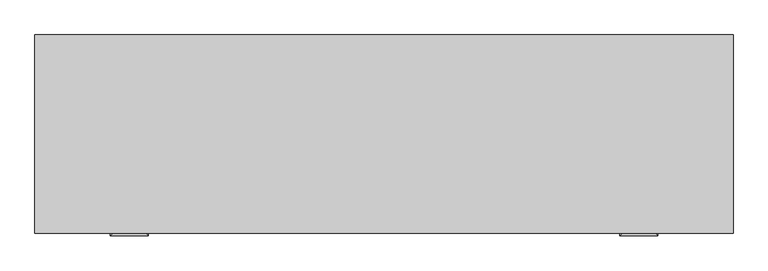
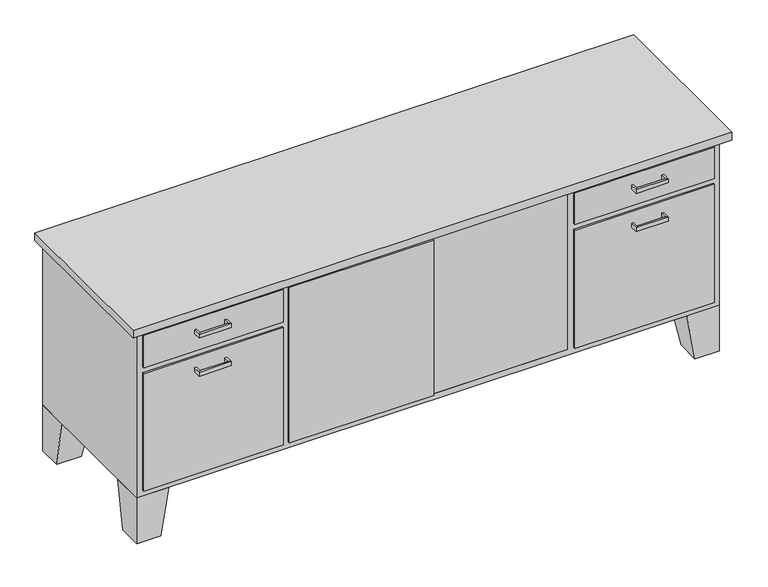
"""IFC4 building model written with IfcOpenShell, lengths in millimetres: furniture geometry, Credencia 1 : 1830 x 610 x 734  mm."""

import ifcopenshell
import ifcopenshell.guid

model = None  # the IFC model being written
_history = None  # IfcOwnerHistory: only IFC2X3 demands one
_inside = {}  # id of a spatial element -> (the spatial element, [elements in it])
_under = {}  # id of a project, library or spatial element -> (it, [spatial elements below it])
_declared = {}  # id of a project -> (the project, [libraries it declares])
_typed = {}  # id of a type object -> (the type object, [elements of that type])
_made_of = {}  # id of a material, layer set ... -> (it, [elements and type objects made of it])


def new_model(schema):
    """Start an empty IFC model of exactly this schema.

    Asked for "IFC4X3", IfcOpenShell would pick the latest addendum, in which some entities
    have other attributes; the version numbers below select the first issue.
    IFC2X3 requires an IfcOwnerHistory on every rooted entity: one is made here for all.
    """
    global model, _history
    if schema == "IFC4X3":
        model = ifcopenshell.file(schema_version=(4, 3, 0, 0))
    else:
        model = ifcopenshell.file(schema=schema)
    _inside.clear()
    _under.clear()
    _declared.clear()
    _typed.clear()
    _made_of.clear()
    _history = None
    if model.schema == "IFC2X3":
        org = make("IfcOrganization", Name="unknown")
        user = make(
            "IfcPersonAndOrganization",
            ThePerson=make("IfcPerson", FamilyName="unknown"),
            TheOrganization=org,
        )
        app = make(
            "IfcApplication",
            ApplicationDeveloper=org,
            Version="unknown",
            ApplicationFullName="unknown",
            ApplicationIdentifier="unknown",
        )
        _history = make(
            "IfcOwnerHistory",
            OwningUser=user,
            OwningApplication=app,
            ChangeAction="ADDED",
            CreationDate=0,
        )
    return model


def make(cls, **values):
    """One entity of the class cls with the attributes given. An attribute that is None is left unset."""
    return model.create_entity(
        cls, **{name: value for name, value in values.items() if value is not None}
    )


def rooted(cls, **values):
    """An entity with a GlobalId (a new one), such as an element, a storey or a relation."""
    return make(cls, GlobalId=ifcopenshell.guid.new(), OwnerHistory=_history, **values)


def si_unit(unit_type, name, prefix=None):
    """IfcSIUnit, for example si_unit("LENGTHUNIT", "METRE", prefix="MILLI")."""
    return make("IfcSIUnit", UnitType=unit_type, Prefix=prefix, Name=name)


def assignment(units):
    """IfcUnitAssignment: the units of a project."""
    return None if units is None else make("IfcUnitAssignment", Units=units)


def point(xyz):
    """IfcCartesianPoint."""
    return None if xyz is None else make("IfcCartesianPoint", Coordinates=xyz)


def direction(xyz):
    """IfcDirection."""
    return None if xyz is None else make("IfcDirection", DirectionRatios=xyz)


def frame(location, z_axis=None, x_axis=None):
    """IfcAxis2Placement3D, a coordinate frame: its origin and axes. An axis left out is left unset."""
    return make(
        "IfcAxis2Placement3D",
        Location=point(location),
        Axis=direction(z_axis),
        RefDirection=direction(x_axis),
    )


def origin():
    """The frame at (0, 0, 0) with its axes left unset."""
    return frame((0.0, 0.0, 0.0))


def place(relative_to, where):
    """IfcLocalPlacement: puts the frame where relative to a parent placement (None: the world)."""
    return make(
        "IfcLocalPlacement", PlacementRelTo=relative_to, RelativePlacement=where
    )


def context(
    kind, dimensions, precision=None, world=None, true_north=None, identifier=None
):
    """IfcGeometricRepresentationContext, for example the 3D "Model" context."""
    return make(
        "IfcGeometricRepresentationContext",
        ContextIdentifier=identifier,
        ContextType=kind,
        CoordinateSpaceDimension=dimensions,
        Precision=precision,
        WorldCoordinateSystem=world,
        TrueNorth=true_north,
    )


def project(units=None, contexts=None):
    """IfcProject with its units and contexts."""
    return rooted(
        "IfcProject",
        Name="project",
        RepresentationContexts=contexts,
        UnitsInContext=assignment(units),
    )


def spatial(cls, under=None, at=None, **own):
    """A site, building, storey or space (cls), placed at a placement, below another one or the project."""
    s = rooted(cls, ObjectPlacement=at, **own)
    if under is not None:
        _under.setdefault(under.id(), (under, []))[1].append(s)
    return s


def polyline(points):
    """IfcPolyline through the points."""
    return make("IfcPolyline", Points=[point(p) for p in points])


def outline(outer, holes=None, kind="AREA"):
    """IfcArbitraryClosedProfileDef: a profile drawn as a closed curve; with holes, ...WithVoids."""
    if holes is None:
        return make("IfcArbitraryClosedProfileDef", ProfileType=kind, OuterCurve=outer)
    return make(
        "IfcArbitraryProfileDefWithVoids",
        ProfileType=kind,
        OuterCurve=outer,
        InnerCurves=holes,
    )


def extrude(swept, where, along, depth):
    """IfcExtrudedAreaSolid: the profile swept, set in the frame where, extruded along a direction by depth."""
    return make(
        "IfcExtrudedAreaSolid",
        SweptArea=swept,
        Position=where,
        ExtrudedDirection=direction(along),
        Depth=depth,
    )


def faces_of(points, faces, orient=None, outer=None):
    """IfcFace entities. A face is a list of loops; a loop is a list of indices into points, from 0.

    orient and outer hold one flag for each loop. By default every Orientation is true, the
    first loop of a face is its IfcFaceOuterBound and the others are IfcFaceBound.
    """
    made = []
    for i, loops in enumerate(faces):
        bounds = []
        for j, loop in enumerate(loops):
            is_outer = j == 0 if outer is None else outer[i][j]
            bounds.append(
                make(
                    "IfcFaceOuterBound" if is_outer else "IfcFaceBound",
                    Bound=make("IfcPolyLoop", Polygon=[points[k] for k in loop]),
                    Orientation=True if orient is None else orient[i][j],
                )
            )
        made.append(make("IfcFace", Bounds=bounds))
    return made


def faceted_brep(points, faces, orient=None, outer=None, voids=None):
    """IfcFacetedBrep: a solid bounded by flat faces; with voids (closed shells), ...WithVoids."""
    shared = [point(p) for p in points]
    hull = make("IfcClosedShell", CfsFaces=faces_of(shared, faces, orient, outer))
    if voids is None:
        return make("IfcFacetedBrep", Outer=hull)
    return make(
        "IfcFacetedBrepWithVoids",
        Outer=hull,
        Voids=[
            make(cls, CfsFaces=faces_of(shared, fs, o, b)) for cls, fs, o, b in voids
        ],
    )


def shape(context_of_items, identifier, shape_type, items):
    """IfcShapeRepresentation: the items that make up one representation, for example the "Body"."""
    return make(
        "IfcShapeRepresentation",
        ContextOfItems=context_of_items,
        RepresentationIdentifier=identifier,
        RepresentationType=shape_type,
        Items=items,
    )


def source(mapping_origin, context_of_items, identifier, shape_type, items):
    """IfcRepresentationMap: a shape defined once, which mapped items show again and again."""
    return make(
        "IfcRepresentationMap",
        MappingOrigin=mapping_origin,
        MappedRepresentation=shape(context_of_items, identifier, shape_type, items),
    )


def transform(
    local_origin,
    x_axis=None,
    y_axis=None,
    z_axis=None,
    scale=None,
    scale2=None,
    scale3=None,
    uniform=True,
):
    """IfcCartesianTransformationOperator3D, or its non-uniform kind. x_axis, y_axis, z_axis: its Axis1, 2, 3."""
    if uniform:
        return make(
            "IfcCartesianTransformationOperator3D",
            Axis1=direction(x_axis),
            Axis2=direction(y_axis),
            LocalOrigin=point(local_origin),
            Scale=scale,
            Axis3=direction(z_axis),
        )
    return make(
        "IfcCartesianTransformationOperator3DnonUniform",
        Axis1=direction(x_axis),
        Axis2=direction(y_axis),
        LocalOrigin=point(local_origin),
        Scale=scale,
        Axis3=direction(z_axis),
        Scale2=scale2,
        Scale3=scale3,
    )


def mapped(mapping_source, mapping_target):
    """IfcMappedItem: shows the shape of a source again, moved by a transform."""
    return make(
        "IfcMappedItem", MappingSource=mapping_source, MappingTarget=mapping_target
    )


def made_of(thing, what):
    """Note that an element or type object is made of a material, layer set ...; save() writes the relation."""
    if what is not None:
        _made_of.setdefault(what.id(), (what, []))[1].append(thing)
    return thing


def element(
    cls,
    number,
    at=None,
    inside=None,
    cuts=None,
    type_object=None,
    material=None,
    context=None,
    identifier="Body",
    shape_type=None,
    held_by="IfcProductDefinitionShape",
    body=None,
    shapes=None,
    **own,
):
    """One element of the class cls, such as IfcWall. Its Tag is "e" and its number.

    at: its placement. inside: the storey or other place that contains it. cuts: it is an
    opening in that element (IfcRelVoidsElement). A single representation is given by context,
    identifier, shape_type and body (its items); several are given by shapes. held_by: the class
    of the entity that holds the representations. save() writes the other relations.
    """
    e = rooted(cls, Tag="e%d" % number, ObjectPlacement=at, **own)
    if body is not None:
        shapes = [shape(context, identifier, shape_type, body)]
    if shapes is not None:
        e.Representation = make(held_by, Representations=shapes)
    if inside is not None:
        _inside.setdefault(inside.id(), (inside, []))[1].append(e)
    if cuts is not None:
        rooted(
            "IfcRelVoidsElement", RelatingBuildingElement=cuts, RelatedOpeningElement=e
        )
    if type_object is not None:
        _typed.setdefault(type_object.id(), (type_object, []))[1].append(e)
    return made_of(e, material)


def aggregate(whole, parts):
    """IfcRelAggregates: a whole, such as a stair, and the parts it consists of."""
    return rooted("IfcRelAggregates", RelatingObject=whole, RelatedObjects=parts)


def save(model, path):
    """Write the relations noted so far, then the file.

    IfcRelAggregates (storeys below a building ...), IfcRelContainedInSpatialStructure (elements
    in a storey), IfcRelDefinesByType, IfcRelAssociatesMaterial and IfcRelDeclares: one each for
    every whole, place, type object, material and project.
    """
    for whole, parts in _under.values():
        aggregate(whole, parts)
    for where, things in _inside.values():
        rooted(
            "IfcRelContainedInSpatialStructure",
            RelatedElements=things,
            RelatingStructure=where,
        )
    for kind, things in _typed.values():
        rooted("IfcRelDefinesByType", RelatedObjects=things, RelatingType=kind)
    for what, things in _made_of.values():
        rooted("IfcRelAssociatesMaterial", RelatedObjects=things, RelatingMaterial=what)
    for by, libraries in _declared.values():
        rooted("IfcRelDeclares", RelatingContext=by, RelatedDefinitions=libraries)
    model.write(path)


def furniture_878a3a28(model_context):
    return source(origin(), model_context, "Body", "SolidModel", [
        extrude(outline(polyline([(1001.9442623, 259.5803279), (1001.9442623, -275.8196721), (-882.8557377, -275.8196721), (-882.8557377, 259.5803279), (1001.9442623, 259.5803279)])), frame((0.0, 0.0, 708.6), z_axis=(0.0, 0.0, 1.0), x_axis=(1.0, 0.0, 0.0)), (0.0, 0.0, 1.0), 25.4),
        extrude(outline(polyline([(708.6, 976.5442623), (708.6, -857.4557377), (152.4, -857.4557377), (152.4, 976.5442623), (708.6, 976.5442623)]), holes=[polyline([(689.55, -379.9057377), (689.55, 498.9942623), (171.45, 498.9942623), (171.45, -379.9057377), (689.55, -379.9057377)])]), frame((0.0, -250.4196721, 0.0), z_axis=(0.0, 1.0, 0.0), x_axis=(0.0, 0.0, 1.0)), (0.0, 0.0, 1.0), 510.0),
        faceted_brep([(874.9442623, -250.4196721, 152.4), (976.5442623, -250.4196721, 152.4), (976.5442623, -148.8196721, 152.4), (874.9442623, -148.8196721, 152.4), (900.3442623, -250.4196721, 0.0), (900.3442623, -174.2196721, 0.0), (976.5442623, -174.2196721, 0.0), (976.5442623, -250.4196721, 0.0)], [[[0, 1, 2, 3]], [[4, 5, 6, 7]], [[4, 7, 1, 0]], [[7, 6, 2, 1]], [[6, 5, 3, 2]], [[5, 4, 0, 3]]]),
        faceted_brep([(-755.8557377, 259.5803279, 152.4), (-857.4557377, 259.5803279, 152.4), (-857.4557377, 157.9803279, 152.4), (-755.8557377, 157.9803279, 152.4), (-781.2557377, 259.5803279, 0.0), (-781.2557377, 183.3803279, 0.0), (-857.4557377, 183.3803279, 0.0), (-857.4557377, 259.5803279, 0.0)], [[[0, 1, 2, 3]], [[4, 5, 6, 7]], [[4, 7, 1, 0]], [[7, 6, 2, 1]], [[6, 5, 3, 2]], [[5, 4, 0, 3]]]),
        faceted_brep([(-755.8557377, -250.4196721, 152.4), (-755.8557377, -148.8196721, 152.4), (-857.4557377, -148.8196721, 152.4), (-857.4557377, -250.4196721, 152.4), (-781.2557377, -250.4196721, 0.0), (-857.4557377, -250.4196721, 0.0), (-857.4557377, -174.2196721, 0.0), (-781.2557377, -174.2196721, 0.0)], [[[0, 1, 2, 3]], [[4, 5, 6, 7]], [[4, 7, 1, 0]], [[7, 6, 2, 1]], [[6, 5, 3, 2]], [[5, 4, 0, 3]]]),
        extrude(outline(polyline([(-398.9557377, -256.7696721), (-838.4057377, -256.7696721), (-838.4057377, -250.4196721), (-398.9557377, -250.4196721), (-398.9557377, -256.7696721)])), frame((0.0, 0.0, 581.6), z_axis=(0.0, 0.0, 1.0), x_axis=(1.0, 0.0, 0.0)), (0.0, 0.0, 1.0), 107.95),
        extrude(outline(polyline([(-398.9557377, -256.7696721), (-838.4057377, -256.7696721), (-838.4057377, -250.4196721), (-398.9557377, -250.4196721), (-398.9557377, -256.7696721)])), frame((0.0, 0.0, 171.45), z_axis=(0.0, 0.0, 1.0), x_axis=(1.0, 0.0, 0.0)), (0.0, 0.0, 1.0), 391.1),
        extrude(outline(polyline([(957.4942623, -256.7696721), (518.0442623, -256.7696721), (518.0442623, -250.4196721), (957.4942623, -250.4196721), (957.4942623, -256.7696721)])), frame((0.0, 0.0, 584.2), z_axis=(0.0, 0.0, 1.0), x_axis=(1.0, 0.0, 0.0)), (0.0, 0.0, 1.0), 105.35),
        extrude(outline(polyline([(957.4942623, -256.7696721), (518.0442623, -256.7696721), (518.0442623, -250.4196721), (957.4942623, -250.4196721), (957.4942623, -256.7696721)])), frame((0.0, 0.0, 171.45), z_axis=(0.0, 0.0, 1.0), x_axis=(1.0, 0.0, 0.0)), (0.0, 0.0, 1.0), 393.7),
        faceted_brep([(874.9442623, 259.5803279, 152.4), (874.9442623, 157.9803279, 152.4), (976.5442623, 157.9803279, 152.4), (976.5442623, 259.5803279, 152.4), (900.3442623, 259.5803279, 0.0), (976.5442623, 259.5803279, 0.0), (976.5442623, 183.3803279, 0.0), (900.3442623, 183.3803279, 0.0)], [[[0, 1, 2, 3]], [[4, 5, 6, 7]], [[4, 7, 1, 0]], [[7, 6, 2, 1]], [[6, 5, 3, 2]], [[5, 4, 0, 3]]]),
        extrude(outline(polyline([(73.6254475, -256.7696721), (-379.9057377, -256.7696721), (-379.9057377, -250.4196721), (73.6254475, -250.4196721), (73.6254475, -256.7696721)])), frame((0.0, 0.0, 171.45), z_axis=(0.0, 0.0, 1.0), x_axis=(1.0, 0.0, 0.0)), (0.0, 0.0, 1.0), 518.1),
        extrude(outline(polyline([(533.0023176, -250.4196721), (46.8442623, -250.4196721), (46.8442623, -204.7714583), (533.0023176, -204.7714583), (533.0023176, -250.4196721)])), frame((0.0, 0.0, 171.45), z_axis=(0.0, 0.0, 1.0), x_axis=(1.0, 0.0, 0.0)), (0.0, 0.0, 1.0), 518.1),
        faceted_brep([(702.8442623, -256.7696721, 653.994), (702.8442623, -256.7696721, 641.294), (696.4942623, -256.7696721, 641.294), (696.4942623, -256.7696721, 653.994), (702.8442623, -275.8196721, 653.994), (702.8442623, -275.8196721, 641.294), (696.4942623, -282.1696721, 641.294), (696.4942623, -282.1696721, 653.994), (791.7442623, -275.8196721, 653.994), (791.7442623, -275.8196721, 641.294), (798.0942623, -282.1696721, 641.294), (798.0942623, -282.1696721, 653.994), (791.7442623, -256.7696721, 653.994), (798.0942623, -256.7696721, 653.994), (798.0942623, -256.7696721, 641.294), (791.7442623, -256.7696721, 641.294)], [[[0, 1, 2, 3]], [[1, 0, 4, 5]], [[2, 1, 5, 6]], [[3, 2, 6, 7]], [[0, 3, 7, 4]], [[5, 4, 8, 9]], [[6, 5, 9, 10]], [[7, 6, 10, 11]], [[4, 7, 11, 8]], [[12, 13, 14, 15]], [[9, 8, 12, 15]], [[10, 9, 15, 14]], [[11, 10, 14, 13]], [[8, 11, 13, 12]]]),
        faceted_brep([(702.8442623, -256.7696721, 527.012), (702.8442623, -256.7696721, 514.312), (696.4942623, -256.7696721, 514.312), (696.4942623, -256.7696721, 527.012), (702.8442623, -275.8196721, 527.012), (702.8442623, -275.8196721, 514.312), (696.4942623, -282.1696721, 514.312), (696.4942623, -282.1696721, 527.012), (791.7442623, -275.8196721, 527.012), (791.7442623, -275.8196721, 514.312), (798.0942623, -282.1696721, 514.312), (798.0942623, -282.1696721, 527.012), (791.7442623, -256.7696721, 527.012), (798.0942623, -256.7696721, 527.012), (798.0942623, -256.7696721, 514.312), (791.7442623, -256.7696721, 514.312)], [[[0, 1, 2, 3]], [[1, 0, 4, 5]], [[2, 1, 5, 6]], [[3, 2, 6, 7]], [[0, 3, 7, 4]], [[5, 4, 8, 9]], [[6, 5, 9, 10]], [[7, 6, 10, 11]], [[4, 7, 11, 8]], [[12, 13, 14, 15]], [[9, 8, 12, 15]], [[10, 9, 15, 14]], [[11, 10, 14, 13]], [[8, 11, 13, 12]]]),
        faceted_brep([(-672.6557377, -256.7696721, 527.012), (-672.6557377, -256.7696721, 514.312), (-679.0057377, -256.7696721, 514.312), (-679.0057377, -256.7696721, 527.012), (-672.6557377, -275.8196721, 527.012), (-672.6557377, -275.8196721, 514.312), (-679.0057377, -282.1696721, 514.312), (-679.0057377, -282.1696721, 527.012), (-583.7557377, -275.8196721, 527.012), (-583.7557377, -275.8196721, 514.312), (-577.4057377, -282.1696721, 514.312), (-577.4057377, -282.1696721, 527.012), (-583.7557377, -256.7696721, 527.012), (-577.4057377, -256.7696721, 527.012), (-577.4057377, -256.7696721, 514.312), (-583.7557377, -256.7696721, 514.312)], [[[0, 1, 2, 3]], [[1, 0, 4, 5]], [[2, 1, 5, 6]], [[3, 2, 6, 7]], [[0, 3, 7, 4]], [[5, 4, 8, 9]], [[6, 5, 9, 10]], [[7, 6, 10, 11]], [[4, 7, 11, 8]], [[12, 13, 14, 15]], [[9, 8, 12, 15]], [[10, 9, 15, 14]], [[11, 10, 14, 13]], [[8, 11, 13, 12]]]),
        faceted_brep([(-672.6557377, -256.7696721, 653.994), (-672.6557377, -256.7696721, 641.294), (-679.0057377, -256.7696721, 641.294), (-679.0057377, -256.7696721, 653.994), (-672.6557377, -275.8196721, 653.994), (-672.6557377, -275.8196721, 641.294), (-679.0057377, -282.1696721, 641.294), (-679.0057377, -282.1696721, 653.994), (-583.7557377, -275.8196721, 653.994), (-583.7557377, -275.8196721, 641.294), (-577.4057377, -282.1696721, 641.294), (-577.4057377, -282.1696721, 653.994), (-583.7557377, -256.7696721, 653.994), (-577.4057377, -256.7696721, 653.994), (-577.4057377, -256.7696721, 641.294), (-583.7557377, -256.7696721, 641.294)], [[[0, 1, 2, 3]], [[1, 0, 4, 5]], [[2, 1, 5, 6]], [[3, 2, 6, 7]], [[0, 3, 7, 4]], [[5, 4, 8, 9]], [[6, 5, 9, 10]], [[7, 6, 10, 11]], [[4, 7, 11, 8]], [[12, 13, 14, 15]], [[9, 8, 12, 15]], [[10, 9, 15, 14]], [[11, 10, 14, 13]], [[8, 11, 13, 12]]]),
    ])


if __name__ == "__main__":
    model = new_model("IFC4")
    model_context = context("Model", 3, world=origin())
    ifc_project = project(units=[si_unit("LENGTHUNIT", "METRE", prefix="MILLI")], contexts=[model_context])
    site = spatial("IfcSite", under=ifc_project)
    building = spatial("IfcBuilding", under=site)
    placement = place(None, origin())
    furniture_shape = furniture_878a3a28(model_context)
    element("IfcFurniture", 1, ObjectType="Credencia 1 : 1830 x 610 x 734  mm", at=placement, inside=building, context=model_context, shape_type="MappedRepresentation", body=[
        mapped(furniture_shape, transform((0.0, 0.0, 0.0), x_axis=(1.0, 0.0, 0.0), y_axis=(0.0, 1.0, 0.0), z_axis=(0.0, 0.0, 1.0))),
    ])
    save(model, "model.ifc")
